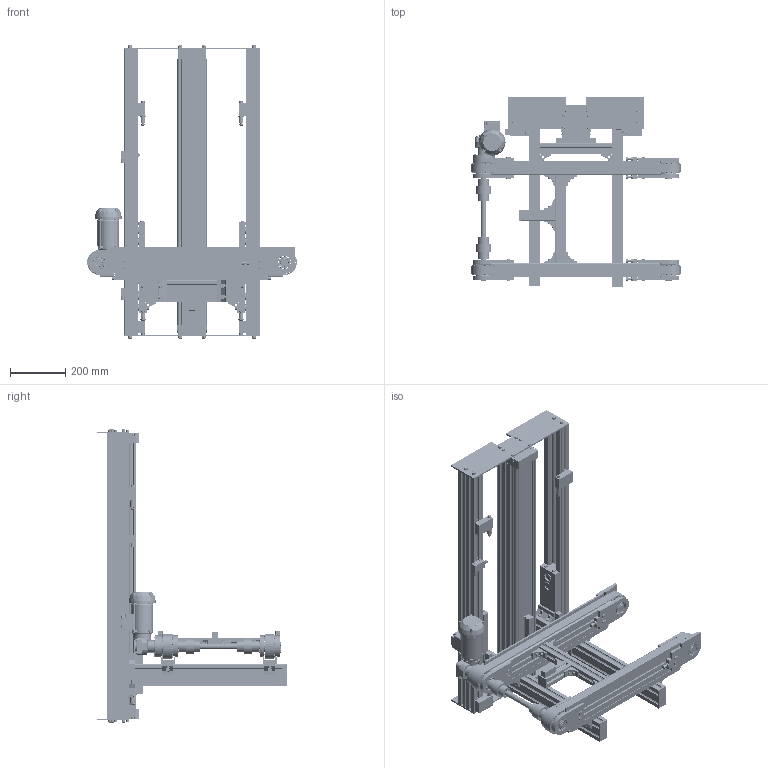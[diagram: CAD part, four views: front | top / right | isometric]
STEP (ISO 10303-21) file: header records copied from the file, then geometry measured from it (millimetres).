
FILE_DESCRIPTION(/* description */ (''),/* implementation_level */ '2;1');
FILE_NAME(/* name */ 'C:\Marketing\01_Versamove-SPU_STEP-Dateien-Homepage\Versamove plus\KHL-2010.stp',/* time_stamp */ '2017-02-03T08:57:44+01:00',/* author */ ('herbert.engels'),/* organization */ (''),/* preprocessor_version */ 'ST-DEVELOPER v15.6',/* originating_system */ 'Autodesk Inventor 2015',/* authorisation */ '');
FILE_SCHEMA (('CONFIG_CONTROL_DESIGN'));
Products named in the file (1): KHL-2010
Bounding box: 761.13 x 690 x 1063 mm (x, y, z)
Volume: 27389055.6 mm3; surface area: 5536968.1 mm2
Topology: 2 solids, 2 shells, 7674 faces, 22706 edges, 14635 vertices
Faces by surface type: plane 4276, cylinder 2146, cone 839, torus 282, sphere 73, bspline 58
Full cylindrical faces by diameter (mm): 2.459 x4, 4 x12, 4.567 x3, 4.8 x4, 6.647 x2, 6.7 x6, 7 x10, 7.323 x4, 8 x113, 10 x8, 11.4 x4, 11.6 x20, 11.9 x4, 12 x6, 13 x66, 13.5 x44, 14 x1, 14.5 x2, 14.95 x6, 16 x5, 17 x20, 19 x6, 20 x21, 25 x8, 25.5 x4, 28 x1, 30 x15, 35 x26, 36 x2, 37 x1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
Entity records: 271275 total; most frequent: CARTESIAN_POINT 63124, ORIENTED_EDGE 42972, DIRECTION 39643, EDGE_CURVE 21459, VERTEX_POINT 14217, AXIS2_PLACEMENT_3D 13248, LINE 13147, VECTOR 13147
